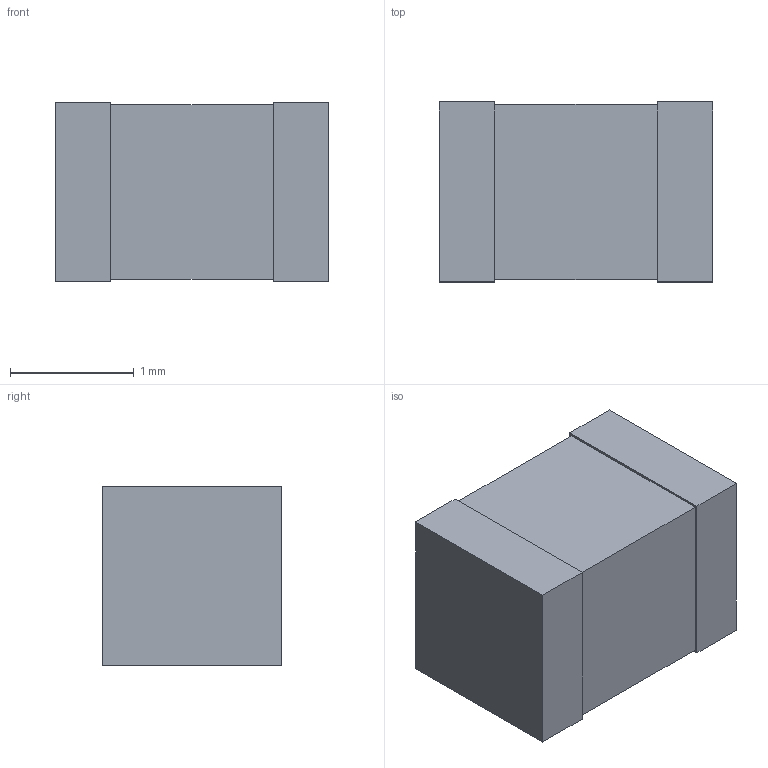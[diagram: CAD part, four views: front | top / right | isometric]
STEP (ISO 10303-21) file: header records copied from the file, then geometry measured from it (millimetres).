
FILE_DESCRIPTION (( 'STEP AP214' ), '1' );
FILE_NAME ('NTHS0805 V2.STEP', '2023-04-13T08:17:51', ( '' ), ( '' ), 'SwSTEP 2.0', 'SolidWorks 2022', '' );
FILE_SCHEMA (( 'AUTOMOTIVE_DESIGN' ));
Length unit declared in the file: millimetre
Products named in the file (1): NTHS0805 V2
Bounding box: 2.21 x 1.45 x 1.45 mm (x, y, z)
Volume: 4.5 mm3; surface area: 17 mm2
Topology: 1 solids, 1 shells, 16 faces, 36 edges, 24 vertices
Faces by surface type: plane 16
Entity records: 474 total; most frequent: CARTESIAN_POINT 77, ORIENTED_EDGE 72, DIRECTION 70, EDGE_CURVE 36, LINE 36, VECTOR 36, VERTEX_POINT 24, EDGE_LOOP 18
